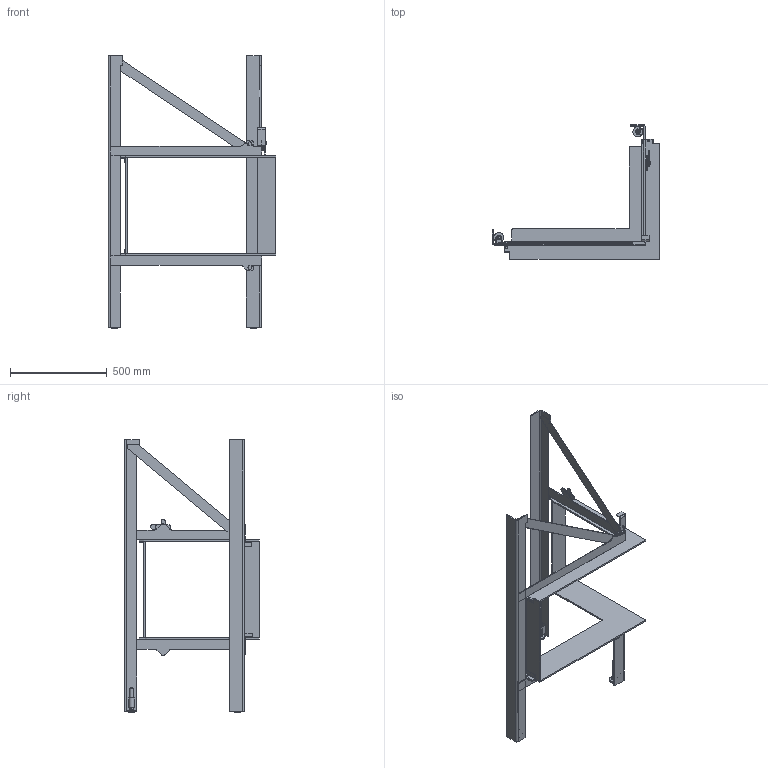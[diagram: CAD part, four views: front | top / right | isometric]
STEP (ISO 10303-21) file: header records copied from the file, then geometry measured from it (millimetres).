
FILE_DESCRIPTION(/* description */ (''),/* implementation_level */ '2;1');
FILE_NAME(/* name */ 'C:\Users\jku\Desktop\Export\RII 50x68x50 Einbaurahmen Rechts freistehend CAD Planung defriten 200109.stp',/* time_stamp */ '2020-01-09T07:48:32+01:00',/* author */ ('JKU'),/* organization */ (''),/* preprocessor_version */ 'ST-DEVELOPER v17.2',/* originating_system */ 'Autodesk Inventor 2019',/* authorisation */ '');
FILE_SCHEMA (('AUTOMOTIVE_DESIGN { 1 0 10303 214 3 1 1 }'));
Length unit declared in the file: millimetre
Products named in the file (1): 2020-00051
Bounding box: 866.4 x 693.5 x 1406 mm (x, y, z)
Volume: 6957711.8 mm3; surface area: 2367422.9 mm2
Topology: 35 solids, 35 shells, 711 faces, 1840 edges, 1207 vertices
Faces by surface type: plane 388, cylinder 271, cone 52
Full cylindrical faces by diameter (mm): 10 x1, 10.21 x2, 16 x4, 20 x2, 24 x3, 25 x2, 30 x3
Entity records: 22376 total; most frequent: CARTESIAN_POINT 4251, DIRECTION 3745, ORIENTED_EDGE 3680, EDGE_CURVE 1840, AXIS2_PLACEMENT_3D 1313, VERTEX_POINT 1207, LINE 1119, VECTOR 1119
